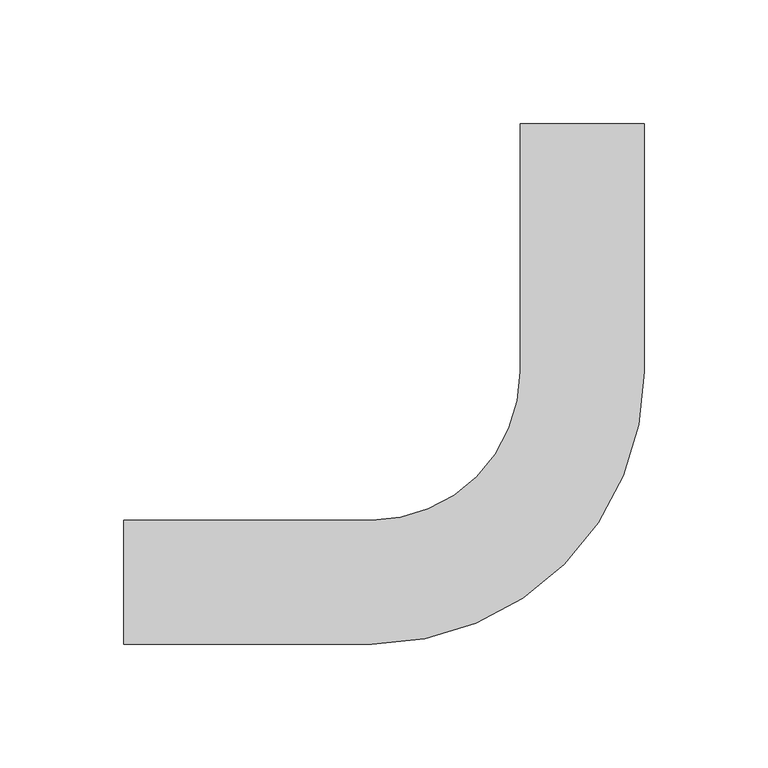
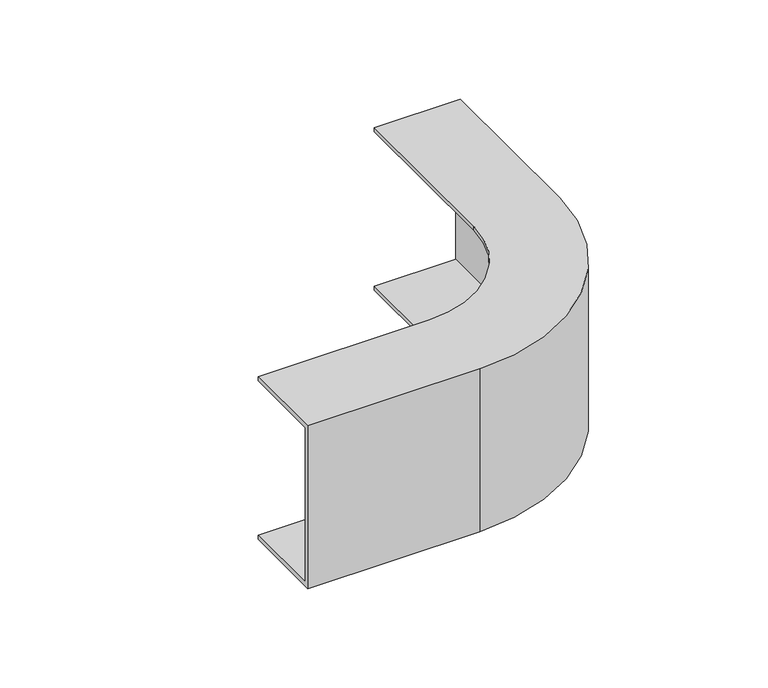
"""IFC4 building model written with IfcOpenShell, lengths in millimetres: cable carrier fitting geometry, BAKS_Vertical_bend_int : LZWCH50/LZWMCH50."""

import ifcopenshell
import ifcopenshell.guid

model = None  # the IFC model being written
_history = None  # IfcOwnerHistory: only IFC2X3 demands one
_inside = {}  # id of a spatial element -> (the spatial element, [elements in it])
_under = {}  # id of a project, library or spatial element -> (it, [spatial elements below it])
_declared = {}  # id of a project -> (the project, [libraries it declares])
_typed = {}  # id of a type object -> (the type object, [elements of that type])
_made_of = {}  # id of a material, layer set ... -> (it, [elements and type objects made of it])


def new_model(schema):
    """Start an empty IFC model of exactly this schema.

    Asked for "IFC4X3", IfcOpenShell would pick the latest addendum, in which some entities
    have other attributes; the version numbers below select the first issue.
    IFC2X3 requires an IfcOwnerHistory on every rooted entity: one is made here for all.
    """
    global model, _history
    if schema == "IFC4X3":
        model = ifcopenshell.file(schema_version=(4, 3, 0, 0))
    else:
        model = ifcopenshell.file(schema=schema)
    _inside.clear()
    _under.clear()
    _declared.clear()
    _typed.clear()
    _made_of.clear()
    _history = None
    if model.schema == "IFC2X3":
        org = make("IfcOrganization", Name="unknown")
        user = make(
            "IfcPersonAndOrganization",
            ThePerson=make("IfcPerson", FamilyName="unknown"),
            TheOrganization=org,
        )
        app = make(
            "IfcApplication",
            ApplicationDeveloper=org,
            Version="unknown",
            ApplicationFullName="unknown",
            ApplicationIdentifier="unknown",
        )
        _history = make(
            "IfcOwnerHistory",
            OwningUser=user,
            OwningApplication=app,
            ChangeAction="ADDED",
            CreationDate=0,
        )
    return model


def make(cls, **values):
    """One entity of the class cls with the attributes given. An attribute that is None is left unset."""
    return model.create_entity(
        cls, **{name: value for name, value in values.items() if value is not None}
    )


def rooted(cls, **values):
    """An entity with a GlobalId (a new one), such as an element, a storey or a relation."""
    return make(cls, GlobalId=ifcopenshell.guid.new(), OwnerHistory=_history, **values)


def si_unit(unit_type, name, prefix=None):
    """IfcSIUnit, for example si_unit("LENGTHUNIT", "METRE", prefix="MILLI")."""
    return make("IfcSIUnit", UnitType=unit_type, Prefix=prefix, Name=name)


def assignment(units):
    """IfcUnitAssignment: the units of a project."""
    return None if units is None else make("IfcUnitAssignment", Units=units)


def point(xyz):
    """IfcCartesianPoint."""
    return None if xyz is None else make("IfcCartesianPoint", Coordinates=xyz)


def direction(xyz):
    """IfcDirection."""
    return None if xyz is None else make("IfcDirection", DirectionRatios=xyz)


def frame(location, z_axis=None, x_axis=None):
    """IfcAxis2Placement3D, a coordinate frame: its origin and axes. An axis left out is left unset."""
    return make(
        "IfcAxis2Placement3D",
        Location=point(location),
        Axis=direction(z_axis),
        RefDirection=direction(x_axis),
    )


def origin():
    """The frame at (0, 0, 0) with its axes left unset."""
    return frame((0.0, 0.0, 0.0))


def place(relative_to, where):
    """IfcLocalPlacement: puts the frame where relative to a parent placement (None: the world)."""
    return make(
        "IfcLocalPlacement", PlacementRelTo=relative_to, RelativePlacement=where
    )


def context(
    kind, dimensions, precision=None, world=None, true_north=None, identifier=None
):
    """IfcGeometricRepresentationContext, for example the 3D "Model" context."""
    return make(
        "IfcGeometricRepresentationContext",
        ContextIdentifier=identifier,
        ContextType=kind,
        CoordinateSpaceDimension=dimensions,
        Precision=precision,
        WorldCoordinateSystem=world,
        TrueNorth=true_north,
    )


def project(units=None, contexts=None):
    """IfcProject with its units and contexts."""
    return rooted(
        "IfcProject",
        Name="project",
        RepresentationContexts=contexts,
        UnitsInContext=assignment(units),
    )


def spatial(cls, under=None, at=None, **own):
    """A site, building, storey or space (cls), placed at a placement, below another one or the project."""
    s = rooted(cls, ObjectPlacement=at, **own)
    if under is not None:
        _under.setdefault(under.id(), (under, []))[1].append(s)
    return s


def polyline(points):
    """IfcPolyline through the points."""
    return make("IfcPolyline", Points=[point(p) for p in points])


def circle_curve(where, radius):
    """IfcCircle in the frame where."""
    return make("IfcCircle", Position=where, Radius=radius)


def shape(context_of_items, identifier, shape_type, items):
    """IfcShapeRepresentation: the items that make up one representation, for example the "Body"."""
    return make(
        "IfcShapeRepresentation",
        ContextOfItems=context_of_items,
        RepresentationIdentifier=identifier,
        RepresentationType=shape_type,
        Items=items,
    )


def source(mapping_origin, context_of_items, identifier, shape_type, items):
    """IfcRepresentationMap: a shape defined once, which mapped items show again and again."""
    return make(
        "IfcRepresentationMap",
        MappingOrigin=mapping_origin,
        MappedRepresentation=shape(context_of_items, identifier, shape_type, items),
    )


def transform(
    local_origin,
    x_axis=None,
    y_axis=None,
    z_axis=None,
    scale=None,
    scale2=None,
    scale3=None,
    uniform=True,
):
    """IfcCartesianTransformationOperator3D, or its non-uniform kind. x_axis, y_axis, z_axis: its Axis1, 2, 3."""
    if uniform:
        return make(
            "IfcCartesianTransformationOperator3D",
            Axis1=direction(x_axis),
            Axis2=direction(y_axis),
            LocalOrigin=point(local_origin),
            Scale=scale,
            Axis3=direction(z_axis),
        )
    return make(
        "IfcCartesianTransformationOperator3DnonUniform",
        Axis1=direction(x_axis),
        Axis2=direction(y_axis),
        LocalOrigin=point(local_origin),
        Scale=scale,
        Axis3=direction(z_axis),
        Scale2=scale2,
        Scale3=scale3,
    )


def mapped(mapping_source, mapping_target):
    """IfcMappedItem: shows the shape of a source again, moved by a transform."""
    return make(
        "IfcMappedItem", MappingSource=mapping_source, MappingTarget=mapping_target
    )


def made_of(thing, what):
    """Note that an element or type object is made of a material, layer set ...; save() writes the relation."""
    if what is not None:
        _made_of.setdefault(what.id(), (what, []))[1].append(thing)
    return thing


def element(
    cls,
    number,
    at=None,
    inside=None,
    cuts=None,
    type_object=None,
    material=None,
    context=None,
    identifier="Body",
    shape_type=None,
    held_by="IfcProductDefinitionShape",
    body=None,
    shapes=None,
    **own,
):
    """One element of the class cls, such as IfcWall. Its Tag is "e" and its number.

    at: its placement. inside: the storey or other place that contains it. cuts: it is an
    opening in that element (IfcRelVoidsElement). A single representation is given by context,
    identifier, shape_type and body (its items); several are given by shapes. held_by: the class
    of the entity that holds the representations. save() writes the other relations.
    """
    e = rooted(cls, Tag="e%d" % number, ObjectPlacement=at, **own)
    if body is not None:
        shapes = [shape(context, identifier, shape_type, body)]
    if shapes is not None:
        e.Representation = make(held_by, Representations=shapes)
    if inside is not None:
        _inside.setdefault(inside.id(), (inside, []))[1].append(e)
    if cuts is not None:
        rooted(
            "IfcRelVoidsElement", RelatingBuildingElement=cuts, RelatedOpeningElement=e
        )
    if type_object is not None:
        _typed.setdefault(type_object.id(), (type_object, []))[1].append(e)
    return made_of(e, material)


def aggregate(whole, parts):
    """IfcRelAggregates: a whole, such as a stair, and the parts it consists of."""
    return rooted("IfcRelAggregates", RelatingObject=whole, RelatedObjects=parts)


def save(model, path):
    """Write the relations noted so far, then the file.

    IfcRelAggregates (storeys below a building ...), IfcRelContainedInSpatialStructure (elements
    in a storey), IfcRelDefinesByType, IfcRelAssociatesMaterial and IfcRelDeclares: one each for
    every whole, place, type object, material and project.
    """
    for whole, parts in _under.values():
        aggregate(whole, parts)
    for where, things in _inside.values():
        rooted(
            "IfcRelContainedInSpatialStructure",
            RelatedElements=things,
            RelatingStructure=where,
        )
    for kind, things in _typed.values():
        rooted("IfcRelDefinesByType", RelatedObjects=things, RelatingType=kind)
    for what, things in _made_of.values():
        rooted("IfcRelAssociatesMaterial", RelatedObjects=things, RelatingMaterial=what)
    for by, libraries in _declared.values():
        rooted("IfcRelDeclares", RelatingContext=by, RelatedDefinitions=libraries)
    model.write(path)


def plane_surface(at):
    """IfcPlane: the flat surface through the origin of the frame at, square to its z axis."""
    return make("IfcPlane", Position=at)


def cylinder_surface(at, radius):
    """IfcCylindricalSurface: all points at the distance radius from the z axis of the frame at."""
    return make("IfcCylindricalSurface", Position=at, Radius=radius)


def revolved_surface(curve, axis_point, axis_direction):
    """IfcSurfaceOfRevolution: the curve turned about the line through axis_point along axis_direction."""
    return make(
        "IfcSurfaceOfRevolution",
        SweptCurve=make("IfcArbitraryOpenProfileDef", ProfileType="CURVE", Curve=curve),
        AxisPosition=make("IfcAxis1Placement", Location=point(axis_point), Axis=direction(axis_direction)),
    )


def advanced_brep(points, edges, surfaces, faces):
    """IfcAdvancedBrep: a solid bounded by faces that lie on surfaces and meet in shared edges.

    An edge is (start, end): straight between two places in points (the first is 0);
    or (start, end, curve); or (start, end, curve, False) where it runs against its curve.
    A face is (place in surfaces, loops), or (place, loops, False) where it looks against
    its surface's normal. A loop lists edges by number (the first is 1), with a minus sign
    where the edge is run from its end to its start. The first loop is the outer one.
    """
    corners = [point(p) for p in points]
    vertices = [make("IfcVertexPoint", VertexGeometry=c) for c in corners]
    made = []
    for start, end, *more in edges:
        made.append(
            make(
                "IfcEdgeCurve",
                EdgeStart=vertices[start],
                EdgeEnd=vertices[end],
                EdgeGeometry=more[0] if more else make("IfcPolyline", Points=[corners[start], corners[end]]),
                SameSense=more[1] if len(more) > 1 else True,
            )
        )
    hull = []
    for where, loops, *sense in faces:
        bounds = []
        for j, loop in enumerate(loops):
            ring = [make("IfcOrientedEdge", EdgeElement=made[abs(k) - 1], Orientation=k > 0) for k in loop]
            bounds.append(
                make(
                    "IfcFaceOuterBound" if j == 0 else "IfcFaceBound",
                    Bound=make("IfcEdgeLoop", EdgeList=ring),
                    Orientation=True,
                )
            )
        hull.append(make("IfcAdvancedFace", Bounds=bounds, FaceSurface=surfaces[where], SameSense=sense[0] if sense else True))
    return make("IfcAdvancedBrep", Outer=make("IfcClosedShell", CfsFaces=hull))


def cable_carrier_fitting_a9251f7c(model_context):
    return source(origin(), model_context, "Body", "AdvancedBrep", [
        advanced_brep(
        [(-185.0, 25.0, -50.0), (-185.0, -25.0, -50.0), (-185.0, -25.0, 50.0), (-185.0, 25.0, 50.0), (-185.0, 25.0, 47.46), (-185.0, -22.46, 47.46), (-185.0, -22.46, -47.46), (-185.0, 25.0, -47.46), (-25.0, 185.0, -50.0), (-25.0, 185.0, -47.46), (22.46, 185.0, -47.46), (22.46, 185.0, 47.46), (-25.0, 185.0, 47.46), (-25.0, 185.0, 50.0), (25.0, 185.0, 50.0), (25.0, 185.0, -50.0), (-85.0, 25.0, -50.0), (-25.0, 85.0, -50.0), (25.0, 85.0, -50.0), (-85.0, -25.0, -50.0), (-85.0, -25.0, 50.0), (25.0, 85.0, 50.0), (-25.0, 85.0, 50.0), (-85.0, 25.0, 50.0), (-85.0, 25.0, 47.46), (-25.0, 85.0, 47.46), (22.46, 85.0, 47.46), (-85.0, -22.46, 47.46), (-85.0, -22.46, -47.46), (22.46, 85.0, -47.46), (-25.0, 85.0, -47.46), (-85.0, 25.0, -47.46)],
        [
            (0, 1),
            (1, 2),
            (2, 3),
            (3, 4),
            (4, 5),
            (5, 6),
            (6, 7),
            (7, 0),
            (8, 9),
            (9, 10),
            (10, 11),
            (11, 12),
            (12, 13),
            (13, 14),
            (14, 15),
            (15, 8),
            (0, 16),
            (16, 17, circle_curve(frame((-85.0, 85.0, -50.0), z_axis=(0.0, 0.0, 1.0), x_axis=(0.0, -1.0, 0.0)), 60.0)),
            (17, 8),
            (15, 18),
            (18, 19, circle_curve(frame((-85.0, 85.0, -50.0), z_axis=(0.0, 0.0, -1.0), x_axis=(0.0, -1.0, 0.0)), 110.0)),
            (19, 1),
            (19, 20),
            (20, 2),
            (20, 21, circle_curve(frame((-85.0, 85.0, 50.0), z_axis=(0.0, 0.0, 1.0), x_axis=(0.0, -1.0, 0.0)), 110.0)),
            (21, 14),
            (13, 22),
            (22, 23, circle_curve(frame((-85.0, 85.0, 50.0), z_axis=(0.0, 0.0, -1.0), x_axis=(0.0, -1.0, 0.0)), 60.0)),
            (23, 3),
            (23, 24),
            (24, 4),
            (24, 25, circle_curve(frame((-85.0, 85.0, 47.46), z_axis=(0.0, 0.0, 1.0), x_axis=(0.0, -1.0, 0.0)), 60.0)),
            (25, 12),
            (11, 26),
            (26, 27, circle_curve(frame((-85.0, 85.0, 47.46), z_axis=(0.0, 0.0, -1.0), x_axis=(0.0, -1.0, 0.0)), 107.46)),
            (27, 5),
            (27, 28),
            (28, 6),
            (28, 29, circle_curve(frame((-85.0, 85.0, -47.46), z_axis=(0.0, 0.0, 1.0), x_axis=(0.0, -1.0, 0.0)), 107.46)),
            (29, 10),
            (9, 30),
            (30, 31, circle_curve(frame((-85.0, 85.0, -47.46), z_axis=(0.0, 0.0, -1.0), x_axis=(0.0, -1.0, 0.0)), 60.0)),
            (31, 7),
            (31, 16),
            (18, 21),
            (22, 25),
            (26, 29),
            (30, 17),
        ],
        [
            plane_surface(frame((-185.0, 0.0, 0.0), z_axis=(-1.0, 0.0, 0.0), x_axis=(0.0, 0.0, 1.0))),
            plane_surface(frame((0.0, 185.0, 0.0), z_axis=(0.0, 1.0, 0.0), x_axis=(0.0, 0.0, 1.0))),
            plane_surface(frame((-185.0, 25.0, -50.0), z_axis=(0.0, 0.0, -1.0), x_axis=(1.0, 0.0, 0.0))),
            plane_surface(frame((-185.0, -25.0, -50.0), z_axis=(0.0, -1.0, 0.0), x_axis=(1.0, 0.0, 0.0))),
            plane_surface(frame((-185.0, -25.0, 50.0), z_axis=(0.0, 0.0, 1.0), x_axis=(1.0, 0.0, 0.0))),
            plane_surface(frame((-185.0, 25.0, 50.0), z_axis=(0.0, 1.0, 0.0), x_axis=(1.0, 0.0, 0.0))),
            plane_surface(frame((-185.0, 25.0, 47.46), z_axis=(0.0, 0.0, -1.0), x_axis=(1.0, 0.0, 0.0))),
            plane_surface(frame((-185.0, -22.46, 47.46), z_axis=(0.0, 1.0, 0.0), x_axis=(1.0, 0.0, 0.0))),
            plane_surface(frame((-185.0, -22.46, -47.46), z_axis=(0.0, 0.0, 1.0), x_axis=(1.0, 0.0, 0.0))),
            plane_surface(frame((-185.0, 25.0, -47.46), z_axis=(0.0, 1.0, 0.0), x_axis=(1.0, 0.0, 0.0))),
            cylinder_surface(frame((-85.0, 85.0, 0.0), z_axis=(0.0, 0.0, 1.0), x_axis=(0.0, -1.0, 0.0)), 110.0),
            revolved_surface(polyline([(-85.0, 25.0, 50.0), (-85.0, 25.0, 47.46)]), (-85.0, 85.0, 0.0), (0.0, 0.0, 1.0)),
            revolved_surface(polyline([(-85.0, -22.459999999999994, 47.46), (-85.0, -22.459999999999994, -47.46)]), (-85.0, 85.0, 0.0), (0.0, 0.0, 1.0)),
            revolved_surface(polyline([(-85.0, 25.0, -47.46), (-85.0, 25.0, -50.0)]), (-85.0, 85.0, 0.0), (0.0, 0.0, 1.0)),
            plane_surface(frame((25.0, 85.0, -50.0), z_axis=(1.0, 0.0, 0.0), x_axis=(0.0, 1.0, 0.0))),
            plane_surface(frame((-25.0, 85.0, 50.0), z_axis=(-1.0, 0.0, 0.0), x_axis=(0.0, 1.0, 0.0))),
            plane_surface(frame((22.46, 85.0, 47.46), z_axis=(-1.0, 0.0, 0.0), x_axis=(0.0, 1.0, 0.0))),
            plane_surface(frame((-25.0, 85.0, -47.46), z_axis=(-1.0, 0.0, 0.0), x_axis=(0.0, 1.0, 0.0))),
        ],
        [
            (0, [[1, 2, 3, 4, 5, 6, 7, 8]]),
            (1, [[9, 10, 11, 12, 13, 14, 15, 16]]),
            (2, [[-1, 17, 18, 19, -16, 20, 21, 22]]),
            (3, [[-2, -22, 23, 24]]),
            (4, [[-3, -24, 25, 26, -14, 27, 28, 29]]),
            (5, [[-4, -29, 30, 31]]),
            (6, [[-5, -31, 32, 33, -12, 34, 35, 36]]),
            (7, [[-6, -36, 37, 38]]),
            (8, [[-7, -38, 39, 40, -10, 41, 42, 43]]),
            (9, [[-8, -43, 44, -17]]),
            (10, [[-25, -23, -21, 45]]),
            (11, [[-32, -30, -28, 46]]),
            (12, [[-39, -37, -35, 47]]),
            (13, [[-18, -44, -42, 48]]),
            (14, [[-45, -20, -15, -26]]),
            (15, [[-46, -27, -13, -33]]),
            (16, [[-47, -34, -11, -40]]),
            (17, [[-48, -41, -9, -19]]),
        ],
    ),
    ])


if __name__ == "__main__":
    model = new_model("IFC4")
    model_context = context("Model", 3, world=origin())
    ifc_project = project(units=[si_unit("LENGTHUNIT", "METRE", prefix="MILLI")], contexts=[model_context])
    site = spatial("IfcSite", under=ifc_project)
    building = spatial("IfcBuilding", under=site)
    placement = place(None, origin())
    cable_carrier_fitting_shape = cable_carrier_fitting_a9251f7c(model_context)
    element("IfcCableCarrierFitting", 1, ObjectType="BAKS_Vertical_bend_int : LZWCH50/LZWMCH50", at=placement, inside=building, context=model_context, shape_type="MappedRepresentation", body=[
        mapped(cable_carrier_fitting_shape, transform((0.0, 0.0, 0.0), x_axis=(1.0, 0.0, 0.0), y_axis=(0.0, 1.0, 0.0), z_axis=(0.0, 0.0, 1.0))),
    ])
    save(model, "model.ifc")
